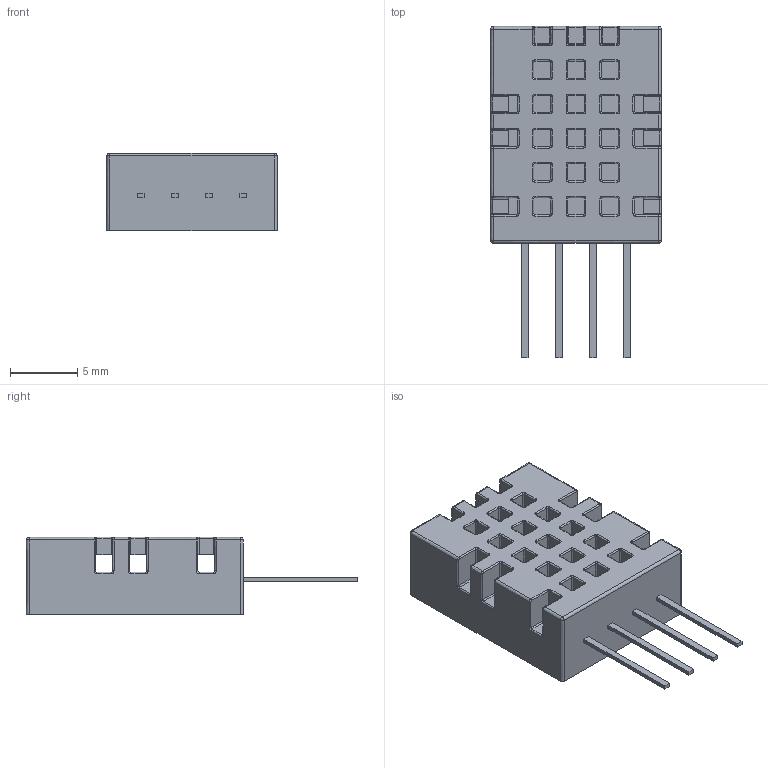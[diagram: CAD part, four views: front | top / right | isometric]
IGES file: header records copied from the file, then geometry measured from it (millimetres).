
Start section: SolidWorks IGES FILE using NURB representation for surfaces
Global section: file name: C:\Users\Micha\Documents\Projekte\IoT\ESP82xx\ESP8266 Amica\DHT11\DHT11.IGS; native system: SolidWorks 2003 by SolidWorks Corporation; preprocessor: Version 5.3; author: Micha; date: 211228.113727; units: millimetre
Bounding box: 12.65 x 24.6 x 5.75 mm (x, y, z)
Volume: 785.3 mm3; surface area: 1235.5 mm2
Topology: 1 solids, 1 shells, 482 faces, 1234 edges, 732 vertices
Faces by surface type: bspline 482
